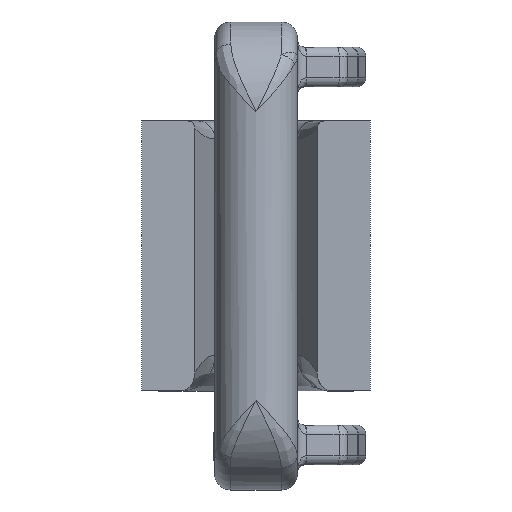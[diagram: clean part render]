
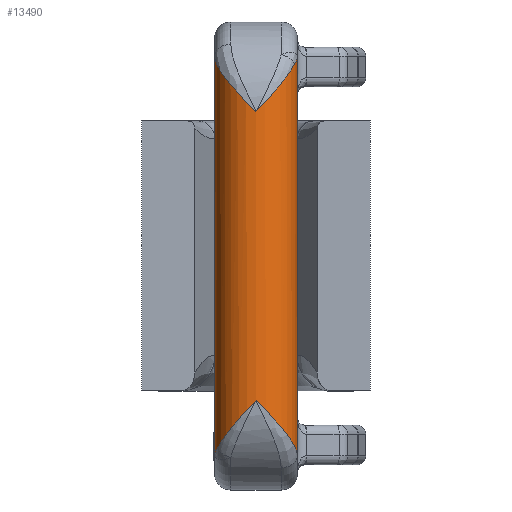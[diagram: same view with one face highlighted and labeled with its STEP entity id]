
A CAD part, front view. The second image highlights one B-rep face of the part: STEP entity #13490.
In plain terms, the highlighted cylindrical face has radius 11.5 mm (diameter 23 mm), a partial arc.
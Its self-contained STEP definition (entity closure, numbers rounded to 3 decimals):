
#3233=DIRECTION('',(1.,0.,0.));
#3234=VECTOR('',#3233,110.854);
#3235=CARTESIAN_POINT('',(-55.427,11.5,-11.5));
#3236=LINE('4035',#3235,#3234);
#5012=DIRECTION('',(-1.,0.,0.));
#5013=VECTOR('',#5012,110.854);
#5014=CARTESIAN_POINT('',(55.427,11.5,11.5));
#5015=LINE('4044',#5014,#5013);
#6067=CARTESIAN_POINT('',(-53.372,15.629,
-10.733));
#6068=CARTESIAN_POINT('',(-53.462,15.514,
-10.778));
#6069=CARTESIAN_POINT('',(-53.641,15.273,
-10.866));
#6070=CARTESIAN_POINT('',(-53.904,14.877,
-10.996));
#6071=CARTESIAN_POINT('',(-54.156,14.453,
-11.118));
#6072=CARTESIAN_POINT('',(-54.397,14.002,
-11.228));
#6073=CARTESIAN_POINT('',(-54.626,13.53,
-11.323));
#6074=CARTESIAN_POINT('',(-54.843,13.039,
-11.4));
#6075=CARTESIAN_POINT('',(-55.049,12.534,
-11.457));
#6076=CARTESIAN_POINT('',(-55.244,12.02,
-11.492));
#6077=CARTESIAN_POINT('',(-55.367,11.674,
-11.5));
#6078=CARTESIAN_POINT('',(-55.427,11.5,-11.5));
#6080=CARTESIAN_POINT('',(40.,23.,
0.));
#6081=CARTESIAN_POINT('',(40.672,23.,
-0.645));
#6082=CARTESIAN_POINT('',(42.01,22.893,-1.93));
#6083=CARTESIAN_POINT('',(44.011,22.404,-3.823));
#6084=CARTESIAN_POINT('',(45.918,21.618,-5.574));
#6085=CARTESIAN_POINT('',(47.712,20.576,-7.144));
#6086=CARTESIAN_POINT('',(49.377,19.319,-8.499));
#6087=CARTESIAN_POINT('',(50.889,17.901,-9.609));
#6088=CARTESIAN_POINT('',(52.248,16.37,-10.466));
#6089=CARTESIAN_POINT('',(53.458,14.767,-11.069));
#6090=CARTESIAN_POINT('',(54.523,13.128,-11.424));
#6091=CARTESIAN_POINT('',(55.141,12.038,-11.5));
#6092=CARTESIAN_POINT('',(55.427,11.5,-11.5));
#6094=CARTESIAN_POINT('',(40.,23.,
0.));
#6095=CARTESIAN_POINT('',(40.658,23.,0.603));
#6096=CARTESIAN_POINT('',(41.969,22.906,1.805));
#6097=CARTESIAN_POINT('',(43.936,22.477,3.585));
#6098=CARTESIAN_POINT('',(45.819,21.785,5.246));
#6099=CARTESIAN_POINT('',(47.597,20.863,6.753));
#6100=CARTESIAN_POINT('',(49.258,19.745,8.078));
#6101=CARTESIAN_POINT('',(50.78,18.474,9.194));
#6102=CARTESIAN_POINT('',(52.157,17.094,10.091));
#6103=CARTESIAN_POINT('',(52.982,16.122,10.544));
#6104=CARTESIAN_POINT('',(53.372,15.629,10.733));
#6106=CARTESIAN_POINT('',(53.372,15.629,10.733));
#6107=CARTESIAN_POINT('',(53.462,15.514,10.778));
#6108=CARTESIAN_POINT('',(53.642,15.273,10.866));
#6109=CARTESIAN_POINT('',(53.904,14.877,10.996));
#6110=CARTESIAN_POINT('',(54.156,14.452,11.118));
#6111=CARTESIAN_POINT('',(54.397,14.002,11.228));
#6112=CARTESIAN_POINT('',(54.626,13.53,11.323));
#6113=CARTESIAN_POINT('',(54.843,13.039,11.4));
#6114=CARTESIAN_POINT('',(55.049,12.534,11.457));
#6115=CARTESIAN_POINT('',(55.244,12.02,11.492));
#6116=CARTESIAN_POINT('',(55.367,11.674,11.5));
#6117=CARTESIAN_POINT('',(55.427,11.5,11.5));
#6119=CARTESIAN_POINT('',(-40.,23.,
0.));
#6120=CARTESIAN_POINT('',(-40.672,23.,
0.645));
#6121=CARTESIAN_POINT('',(-42.011,22.892,1.931));
#6122=CARTESIAN_POINT('',(-44.011,22.404,3.823));
#6123=CARTESIAN_POINT('',(-45.918,21.618,5.575));
#6124=CARTESIAN_POINT('',(-47.713,20.576,7.144));
#6125=CARTESIAN_POINT('',(-49.377,19.318,8.499));
#6126=CARTESIAN_POINT('',(-50.89,17.901,9.609));
#6127=CARTESIAN_POINT('',(-52.248,16.37,10.466));
#6128=CARTESIAN_POINT('',(-53.458,14.766,11.07));
#6129=CARTESIAN_POINT('',(-54.523,13.128,11.424));
#6130=CARTESIAN_POINT('',(-55.141,12.038,11.5));
#6131=CARTESIAN_POINT('',(-55.427,11.5,11.5));
#6133=CARTESIAN_POINT('',(-40.,23.,
0.));
#6134=CARTESIAN_POINT('',(-40.659,23.,
-0.603));
#6135=CARTESIAN_POINT('',(-41.971,22.906,
-1.806));
#6136=CARTESIAN_POINT('',(-43.937,22.477,
-3.586));
#6137=CARTESIAN_POINT('',(-45.819,21.785,
-5.247));
#6138=CARTESIAN_POINT('',(-47.598,20.863,
-6.753));
#6139=CARTESIAN_POINT('',(-49.259,19.744,
-8.078));
#6140=CARTESIAN_POINT('',(-50.78,18.474,
-9.195));
#6141=CARTESIAN_POINT('',(-52.157,17.094,
-10.092));
#6142=CARTESIAN_POINT('',(-52.982,16.122,
-10.544));
#6143=CARTESIAN_POINT('',(-53.372,15.629,
-10.733));
#6150=CARTESIAN_POINT('',(-40.,23.,
0.));
#6351=CARTESIAN_POINT('',(40.,23.,
0.));
#7364=CARTESIAN_POINT('',(55.427,11.5,-11.5));
#7366=VERTEX_POINT('',#7364);
#7372=CARTESIAN_POINT('',(-55.427,11.5,11.5));
#7374=VERTEX_POINT('',#7372);
#7526=VERTEX_POINT('',#6067);
#7527=VERTEX_POINT('',#6078);
#7529=VERTEX_POINT('',#6150);
#7530=VERTEX_POINT('',#6106);
#7531=VERTEX_POINT('',#6117);
#7533=VERTEX_POINT('',#6351);
#13470=CARTESIAN_POINT('',(-65.299,11.5,0.));
#13471=DIRECTION('',(1.,0.,0.));
#13472=DIRECTION('',(0.,0.,-1.));
#13473=AXIS2_PLACEMENT_3D('',#13470,#13471,#13472);
#13474=CYLINDRICAL_SURFACE('1626',#13473,11.5);
#13476=ORIENTED_EDGE('4027',*,*,#13475,.T.);
#13477=ORIENTED_EDGE('4035',*,*,#7851,.T.);
#13479=ORIENTED_EDGE('4036',*,*,#13478,.F.);
#13481=ORIENTED_EDGE('4034',*,*,#13480,.T.);
#13482=ORIENTED_EDGE('4031',*,*,#13462,.T.);
#13483=ORIENTED_EDGE('4044',*,*,#11614,.T.);
#13485=ORIENTED_EDGE('4042',*,*,#13484,.F.);
#13487=ORIENTED_EDGE('4030',*,*,#13486,.T.);
#13488=EDGE_LOOP('1626',(#13476,#13477,#13479,#13481,#13482,#13483,#13485,
#13487));
#13489=FACE_OUTER_BOUND('1626',#13488,.F.);
#6079=B_SPLINE_CURVE_WITH_KNOTS('4027',3,(#6067,#6068,#6069,#6070,#6071,#6072,
#6073,#6074,#6075,#6076,#6077,#6078),.UNSPECIFIED.,.F.,.F.,(4,1,1,1,1,1,1,1,1,
4),(0.,0.111,0.222,0.333,
0.444,0.556,0.667,0.778,
0.889,1.),.UNSPECIFIED.);
#6093=B_SPLINE_CURVE_WITH_KNOTS('4036',3,(#6080,#6081,#6082,#6083,#6084,#6085,
#6086,#6087,#6088,#6089,#6090,#6091,#6092),.UNSPECIFIED.,.F.,.F.,(4,1,1,1,1,1,1,
1,1,1,4),(0.,0.1,0.2,0.3,0.4,0.5,0.6,0.7,0.8,0.9,1.),
.UNSPECIFIED.);
#6105=B_SPLINE_CURVE_WITH_KNOTS('4034',3,(#6094,#6095,#6096,#6097,#6098,#6099,
#6100,#6101,#6102,#6103,#6104),.UNSPECIFIED.,.F.,.F.,(4,1,1,1,1,1,1,1,4),(0.,
0.125,0.25,0.375,0.5,0.625,0.75,0.875,1.),.UNSPECIFIED.);
#6118=B_SPLINE_CURVE_WITH_KNOTS('4031',3,(#6106,#6107,#6108,#6109,#6110,#6111,
#6112,#6113,#6114,#6115,#6116,#6117),.UNSPECIFIED.,.F.,.F.,(4,1,1,1,1,1,1,1,1,
4),(0.,0.111,0.222,0.333,
0.444,0.556,0.667,0.778,
0.889,1.),.UNSPECIFIED.);
#6132=B_SPLINE_CURVE_WITH_KNOTS('4042',3,(#6119,#6120,#6121,#6122,#6123,#6124,
#6125,#6126,#6127,#6128,#6129,#6130,#6131),.UNSPECIFIED.,.F.,.F.,(4,1,1,1,1,1,1,
1,1,1,4),(0.,0.1,0.2,0.3,0.4,0.5,0.6,0.7,0.8,0.9,1.),
.UNSPECIFIED.);
#6144=B_SPLINE_CURVE_WITH_KNOTS('4030',3,(#6133,#6134,#6135,#6136,#6137,#6138,
#6139,#6140,#6141,#6142,#6143),.UNSPECIFIED.,.F.,.F.,(4,1,1,1,1,1,1,1,4),(0.,
0.125,0.25,0.375,0.5,0.625,0.75,0.875,1.),.UNSPECIFIED.);
#7851=EDGE_CURVE('4035',#7527,#7366,#3236,.T.);
#11614=EDGE_CURVE('4044',#7531,#7374,#5015,.T.);
#13462=EDGE_CURVE('4031',#7530,#7531,#6118,.T.);
#13475=EDGE_CURVE('4027',#7526,#7527,#6079,.T.);
#13478=EDGE_CURVE('4036',#7533,#7366,#6093,.T.);
#13480=EDGE_CURVE('4034',#7533,#7530,#6105,.T.);
#13484=EDGE_CURVE('4042',#7529,#7374,#6132,.T.);
#13486=EDGE_CURVE('4030',#7529,#7526,#6144,.T.);
#13490=ADVANCED_FACE('1626',(#13489),#13474,.T.);
